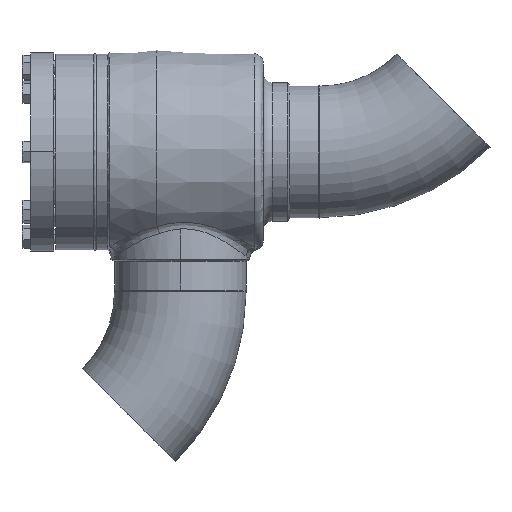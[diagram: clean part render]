
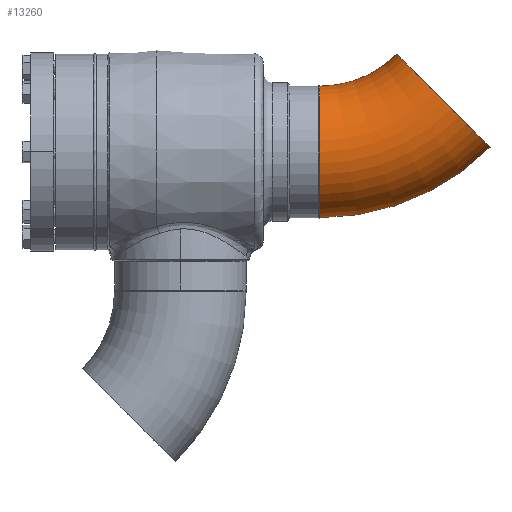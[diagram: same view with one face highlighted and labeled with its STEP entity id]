
A CAD part, left-side view. The second image highlights one B-rep face of the part: STEP entity #13260.
In plain terms, the highlighted toroidal (fillet/blend) face has major radius 152 mm and minor radius 57.15 mm.
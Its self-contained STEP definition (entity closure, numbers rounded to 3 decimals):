
#16390 = CARTESIAN_POINT ( 'NONE',  ( 0., 57.15, 0. ) ) ;
#16440 = CIRCLE ( 'NONE', #16441, 209.15 ) ;
#16441 = AXIS2_PLACEMENT_3D ( 'NONE', #16442, #16443, #16444 ) ;
#16442 = CARTESIAN_POINT ( 'NONE',  ( 0., -152., 0. ) ) ;
#16443 = DIRECTION ( 'NONE',  ( 0., 0., 1. ) ) ;
#16444 = DIRECTION ( 'NONE',  ( 1., 0., 0. ) ) ;
#16446 = CIRCLE ( 'NONE', #16447, 57.15 ) ;
#16447 = AXIS2_PLACEMENT_3D ( 'NONE', #16448, #16449, #16450 ) ;
#16448 = CARTESIAN_POINT ( 'NONE',  ( 0., 0., 0. ) ) ;
#16449 = DIRECTION ( 'NONE',  ( 1., 0., 0. ) ) ;
#16450 = DIRECTION ( 'NONE',  ( 0., 0., -1. ) ) ;
#1389 = EDGE_CURVE ( 'NONE', #2268, #10174, #16446, .T. ) ;
#1697 = ORIENTED_EDGE ( 'NONE', *, *, #1389, .T. ) ;
#2268 = VERTEX_POINT ( 'NONE', #5315 ) ;
#3493 = VERTEX_POINT ( 'NONE', #10166 ) ;
#3700 = VERTEX_POINT ( 'NONE', #10478 ) ;
#5315 = CARTESIAN_POINT ( 'NONE',  ( 0., -57.15, 0. ) ) ;
#7568 = CIRCLE ( 'NONE', #7569, 57.15 ) ;
#7569 = AXIS2_PLACEMENT_3D ( 'NONE', #7570, #7571, #7572 ) ;
#7570 = CARTESIAN_POINT ( 'NONE',  ( 107.48, -44.52, 0. ) ) ;
#7571 = DIRECTION ( 'NONE',  ( 0.707, -0.707, 0. ) ) ;
#7572 = DIRECTION ( 'NONE',  ( 0., 0., -1. ) ) ;
#8089 = EDGE_CURVE ( 'NONE', #3493, #2268, #10445, .T. ) ;
#10166 = CARTESIAN_POINT ( 'NONE',  ( 67.069, -84.931, 0. ) ) ;
#10174 = VERTEX_POINT ( 'NONE', #16390 ) ;
#10229 = EDGE_CURVE ( 'NONE', #3700, #10174, #16440, .T. ) ;
#10445 = CIRCLE ( 'NONE', #10446, 94.85 ) ;
#10446 = AXIS2_PLACEMENT_3D ( 'NONE', #10447, #10448, #10449 ) ;
#10447 = CARTESIAN_POINT ( 'NONE',  ( 0., -152., 0. ) ) ;
#10448 = DIRECTION ( 'NONE',  ( 0., 0., 1. ) ) ;
#10449 = DIRECTION ( 'NONE',  ( 1., 0., 0. ) ) ;
#10478 = CARTESIAN_POINT ( 'NONE',  ( 147.891, -4.109, 0. ) ) ;
#11230 = ORIENTED_EDGE ( 'NONE', *, *, #8089, .T. ) ;
#11716 = EDGE_CURVE ( 'NONE', #3493, #3700, #7568, .T. ) ;
#12058 = ORIENTED_EDGE ( 'NONE', *, *, #11716, .F. ) ;
#12546 = ORIENTED_EDGE ( 'NONE', *, *, #10229, .F. ) ;
#12569 = FACE_OUTER_BOUND ( 'NONE', #13031, .T. ) ;
#12570 = TOROIDAL_SURFACE ( 'NONE', #12571, 152., 57.15 ) ;
#12571 = AXIS2_PLACEMENT_3D ( 'NONE', #12572, #12573, #12574 ) ;
#12572 = CARTESIAN_POINT ( 'NONE',  ( 0., -152., 0. ) ) ;
#12573 = DIRECTION ( 'NONE',  ( 0., 0., 1. ) ) ;
#12574 = DIRECTION ( 'NONE',  ( 1., 0., 0. ) ) ;
#13031 = EDGE_LOOP ( 'NONE', ( #12546, #12058, #11230, #1697 ) ) ;
#13260 = ADVANCED_FACE ( 'NONE', ( #12569 ), #12570, .T. ) ;
